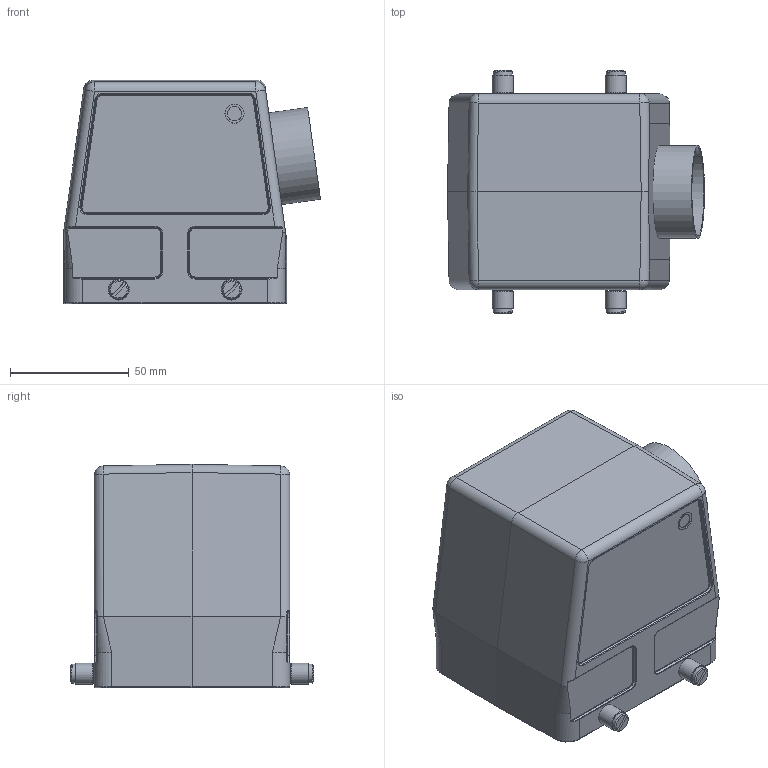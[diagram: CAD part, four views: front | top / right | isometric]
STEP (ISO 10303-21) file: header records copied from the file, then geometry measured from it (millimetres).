
FILE_DESCRIPTION(/* description */ (''),/* implementation_level */ '2;1');
FILE_NAME(/* name */ '100569675ugm000_c.stp',/* time_stamp */ '2018-08-20T09:59:28+02:00',/* author */ (''),/* organization */ (''),/* preprocessor_version */ 'ST-DEVELOPER v16.7',/* originating_system */ 'SIEMENS PLM Software NX 12.0',/* authorisation */ '');
FILE_SCHEMA (('AUTOMOTIVE_DESIGN { 1 0 10303 214 3 1 1 1 }'));
Length unit declared in the file: millimetre
Products named in the file (1): 100569675ugm000_c
Bounding box: 108.19 x 102.5 x 94 mm (x, y, z)
Volume: 171108 mm3; surface area: 76236.6 mm2
Topology: 1 solids, 1 shells, 593 faces, 1500 edges, 941 vertices
Faces by surface type: plane 225, cylinder 186, bspline 90, cone 50, torus 38, sphere 4
Full cylindrical faces by diameter (mm): 3 x8, 5 x4, 8 x4, 8.8 x4, 32 x1, 37 x1, 39 x1
Entity records: 22047 total; most frequent: CARTESIAN_POINT 7245, DIRECTION 2781, ORIENTED_EDGE 2730, EDGE_CURVE 1365, AXIS2_PLACEMENT_3D 1060, VERTEX_POINT 864, EDGE_LOOP 685, LINE 661
